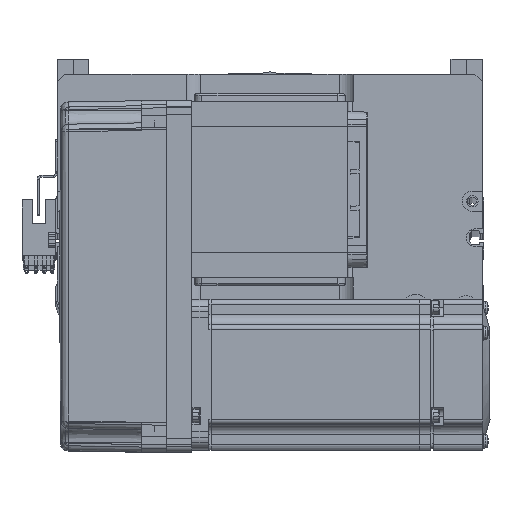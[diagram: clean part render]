
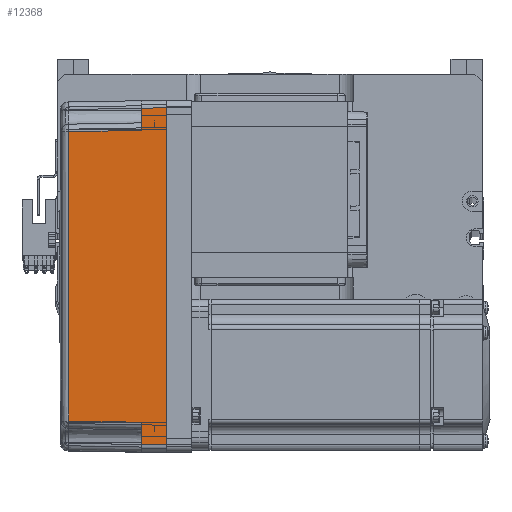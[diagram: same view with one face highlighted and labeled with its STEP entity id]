
A CAD part, top view. The second image highlights one B-rep face of the part: STEP entity #12368.
In plain terms, the highlighted planar face has unit normal (-0.018, 0, 1) as drawn and (0, -1, 0.017) by its records, which use the part's own axes.
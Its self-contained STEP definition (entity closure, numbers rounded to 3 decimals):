
#1287 = CARTESIAN_POINT ( 'NONE',  ( 58., -35.825, 10. ) ) ;
#1437 = LINE ( 'NONE', #1287, #46683 ) ;
#4177 = PLANE ( 'NONE',  #56040 ) ;
#5306 = VERTEX_POINT ( 'NONE', #20093 ) ;
#5498 = ORIENTED_EDGE ( 'NONE', *, *, #30186, .T. ) ;
#5590 = ORIENTED_EDGE ( 'NONE', *, *, #7894, .F. ) ;
#5624 = DIRECTION ( 'NONE',  ( 0.017, 0.017, 1. ) ) ;
#6463 = EDGE_LOOP ( 'NONE', ( #50142, #5498, #58773, #39974, #41548, #49356, #5590, #38838 ) ) ;
#7202 = VECTOR ( 'NONE', #47813, 1000. ) ;
#7894 = EDGE_CURVE ( 'NONE', #5306, #39194, #55194, .T. ) ;
#9455 = EDGE_CURVE ( 'NONE', #31441, #26371, #44579, .T. ) ;
#10383 = CARTESIAN_POINT ( 'NONE',  ( 70., -35.825, 10. ) ) ;
#10624 = EDGE_CURVE ( 'NONE', #18963, #51400, #1437, .T. ) ;
#10811 = DIRECTION ( 'NONE',  ( -1., 0., 0. ) ) ;
#10910 = EDGE_CURVE ( 'NONE', #31441, #5306, #49027, .T. ) ;
#11327 = DIRECTION ( 'NONE',  ( -1., 0., 0. ) ) ;
#12368 = ADVANCED_FACE ( 'NONE', ( #45785 ), #4177, .T. ) ;
#13201 = CARTESIAN_POINT ( 'NONE',  ( 0., -36., 0. ) ) ;
#13988 = DIRECTION ( 'NONE',  ( 0., -1., 0.017 ) ) ;
#14096 = B_SPLINE_CURVE_WITH_KNOTS ( 'NONE', 3,
 ( #48417, #37722, #32923, #53452 ),
 .UNSPECIFIED., .F., .F.,
 ( 4, 4 ),
 ( 0., 1. ),
 .UNSPECIFIED. ) ;
#16755 = CARTESIAN_POINT ( 'NONE',  ( 58., -35.825, 10. ) ) ;
#17741 = VECTOR ( 'NONE', #11327, 1000. ) ;
#18963 = VERTEX_POINT ( 'NONE', #16755 ) ;
#20093 = CARTESIAN_POINT ( 'NONE',  ( -67., -36., 0. ) ) ;
#23571 = LINE ( 'NONE', #10383, #62608 ) ;
#23921 = EDGE_CURVE ( 'NONE', #36983, #39194, #48176, .T. ) ;
#25642 = DIRECTION ( 'NONE',  ( -0.017, 0.017, 1. ) ) ;
#26371 = VERTEX_POINT ( 'NONE', #37719 ) ;
#30186 = EDGE_CURVE ( 'NONE', #26371, #18963, #23571, .T. ) ;
#31441 = VERTEX_POINT ( 'NONE', #63339 ) ;
#32923 = CARTESIAN_POINT ( 'NONE',  ( -19.165, -35.316, 39.181 ) ) ;
#32986 = CARTESIAN_POINT ( 'NONE',  ( -66.826, -35.825, 10. ) ) ;
#35279 = LINE ( 'NONE', #42373, #7202 ) ;
#36168 = DIRECTION ( 'NONE',  ( -0.017, 0.017, 1. ) ) ;
#36983 = VERTEX_POINT ( 'NONE', #37402 ) ;
#37402 = CARTESIAN_POINT ( 'NONE',  ( -58., -35.825, 10. ) ) ;
#37719 = CARTESIAN_POINT ( 'NONE',  ( 66.826, -35.825, 10. ) ) ;
#37722 = CARTESIAN_POINT ( 'NONE',  ( 19.165, -35.316, 39.181 ) ) ;
#38838 = ORIENTED_EDGE ( 'NONE', *, *, #10910, .F. ) ;
#39194 = VERTEX_POINT ( 'NONE', #32986 ) ;
#39974 = ORIENTED_EDGE ( 'NONE', *, *, #60340, .T. ) ;
#40288 = CARTESIAN_POINT ( 'NONE',  ( -66.959, -35.958, 2.39 ) ) ;
#40457 = VERTEX_POINT ( 'NONE', #59661 ) ;
#40726 = CARTESIAN_POINT ( 'NONE',  ( 67., -36., 0. ) ) ;
#41201 = CARTESIAN_POINT ( 'NONE',  ( 70., -35.825, 10. ) ) ;
#41548 = ORIENTED_EDGE ( 'NONE', *, *, #61414, .T. ) ;
#42373 = CARTESIAN_POINT ( 'NONE',  ( -57.495, -35.32, 38.985 ) ) ;
#43626 = CARTESIAN_POINT ( 'NONE',  ( 70., -36., 0. ) ) ;
#44579 = LINE ( 'NONE', #40726, #56254 ) ;
#45785 = FACE_OUTER_BOUND ( 'NONE', #6463, .T. ) ;
#46683 = VECTOR ( 'NONE', #36168, 1000. ) ;
#47813 = DIRECTION ( 'NONE',  ( -0.017, -0.017, -1. ) ) ;
#48176 = LINE ( 'NONE', #41201, #17741 ) ;
#48417 = CARTESIAN_POINT ( 'NONE',  ( 57.495, -35.32, 38.985 ) ) ;
#49027 = LINE ( 'NONE', #13201, #52127 ) ;
#49356 = ORIENTED_EDGE ( 'NONE', *, *, #23921, .T. ) ;
#50142 = ORIENTED_EDGE ( 'NONE', *, *, #9455, .T. ) ;
#51400 = VERTEX_POINT ( 'NONE', #63136 ) ;
#52068 = VECTOR ( 'NONE', #5624, 1000. ) ;
#52127 = VECTOR ( 'NONE', #58336, 1000. ) ;
#53452 = CARTESIAN_POINT ( 'NONE',  ( -57.495, -35.32, 38.985 ) ) ;
#55194 = LINE ( 'NONE', #40288, #52068 ) ;
#56040 = AXIS2_PLACEMENT_3D ( 'NONE', #43626, #13988, #59108 ) ;
#56254 = VECTOR ( 'NONE', #25642, 1000. ) ;
#58336 = DIRECTION ( 'NONE',  ( -1., 0., 0. ) ) ;
#58773 = ORIENTED_EDGE ( 'NONE', *, *, #10624, .T. ) ;
#59108 = DIRECTION ( 'NONE',  ( 0., -0.017, -1. ) ) ;
#59661 = CARTESIAN_POINT ( 'NONE',  ( -57.495, -35.32, 38.985 ) ) ;
#60340 = EDGE_CURVE ( 'NONE', #51400, #40457, #14096, .T. ) ;
#61414 = EDGE_CURVE ( 'NONE', #40457, #36983, #35279, .T. ) ;
#62608 = VECTOR ( 'NONE', #10811, 1000. ) ;
#63136 = CARTESIAN_POINT ( 'NONE',  ( 57.495, -35.32, 38.985 ) ) ;
#63339 = CARTESIAN_POINT ( 'NONE',  ( 67., -36., 0. ) ) ;
